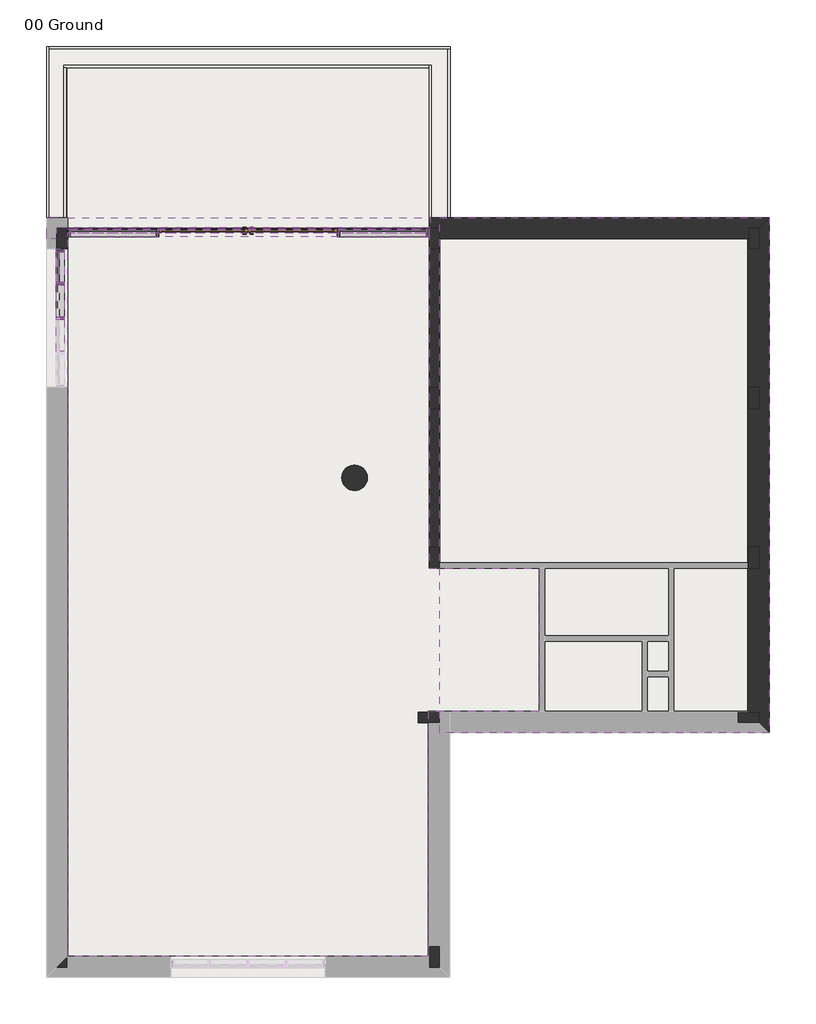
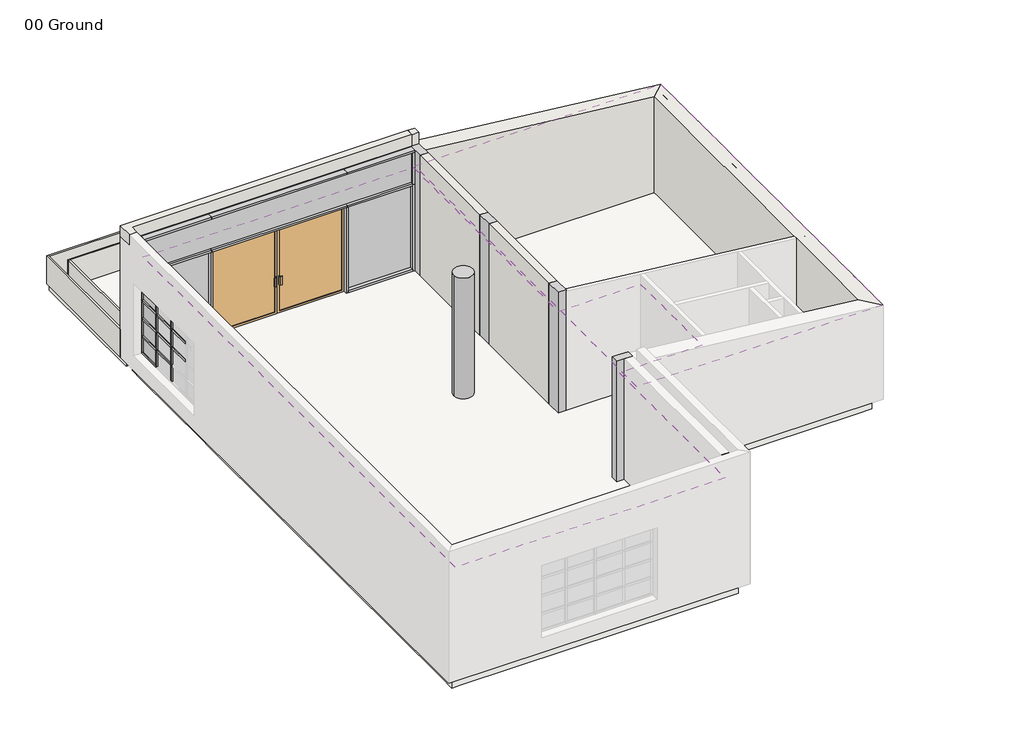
# One storey, part 2 of 2: 37 members, 15 columns, 11 walls, 7 plates, 3 slabs, 1 covering, 1 door, 1 roof.
"""IFC4 building model written with IfcOpenShell, lengths in millimetres."""

from ifc_helpers import new_model, si_unit, point, frame, frame_2d, origin, origin_with_axes, place, context, project, spatial, polyline, circle_curve, trimmed, segment, composite_curve, outline, extrude, faceted_brep, transform, mapped, element, save
from components import m_door_curtain_wall_double_storefront_m_door_curtain_wall_edb91ac7, rectangular_mullion_50_x_150mm_b8963a12, rectangular_mullion_50_x_150mm_ca64fab8, rectangular_mullion_50_x_150mm_c8600b0d, rectangular_mullion_50_x_150mm_7893aaae, rectangular_mullion_50_x_150mm_57f910c3, rectangular_mullion_50_x_150mm_ec782ea6, rectangular_mullion_50_x_150mm_8753ce05, rectangular_mullion_50_x_150mm_324a6438, rectangular_mullion_50_x_150mm_5618a3b2, rectangular_mullion_50_x_150mm_9d7ed0e7, rectangular_mullion_50_x_150mm_3942d5f1, rectangular_mullion_50_x_150mm_75048c14, rectangular_mullion_50_x_150mm_fcf054f2, rectangular_mullion_50_x_150mm_24157160, rectangular_mullion_50_x_150mm_bf0cb304, rectangular_mullion_50_x_150mm_89c22e8d, rectangular_mullion_50_x_150mm_42d59fea, rectangular_mullion_50_x_150mm_129a33a7, rectangular_mullion_50_x_150mm_05a43cda, system_panel_glazed_18425fd7, system_panel_glazed_5c27190a, system_panel_glazed_707fa540, system_panel_glazed_f545c6ae, system_panel_solid_6db23722

model = new_model("IFC4")

# Units and contexts
model_context = context("Model", 3, world=origin())
ifc_project = project(units=[si_unit("LENGTHUNIT", "METRE", prefix="MILLI")], contexts=[model_context])

# Site, building, storey
site = spatial("IfcSite", under=ifc_project)
building = spatial("IfcBuilding", under=site)
storey = spatial("IfcBuildingStorey", under=building, Name="00 Ground", Elevation=0.0)

# Columns
placement = place(None, origin())
element("IfcColumn", 1, ObjectType="M_Concrete-Rectangular-Column : 200 x 400mm", at=placement, inside=storey, context=model_context, shape_type="Brep", body=[
    faceted_brep([(-8122.5407999, 6337.2898352, 0.0), (-8122.5407999, 5937.2898352, 0.0), (-8322.5407999, 5937.2898352, 0.0), (-8322.5407999, 6337.2898352, 0.0), (-8122.5407999, 6337.2898352, 3200.0), (-8122.5407999, 5937.2898352, 3200.0), (-8122.5407999, 5937.2898352, 2300.0), (-8122.5407999, 5937.2898352, 400.0), (-8322.5407999, 5937.2898352, 3200.0), (-8322.5407999, 5937.2898352, 2300.0), (-8322.5407999, 5937.2898352, 400.0), (-8322.5407999, 6124.2898352, 3200.0), (-8322.5407999, 6337.2898352, 3200.0)], [[[0, 1, 2, 3]], [[1, 0, 4, 5, 6, 7]], [[2, 1, 7, 6, 5, 8, 9, 10]], [[3, 2, 10, 9, 8, 11, 12]], [[0, 3, 12, 4]], [[5, 4, 12, 11, 8]]]),
])
element("IfcColumn", 2, ObjectType="M_Concrete-Rectangular-Column : 200 x 400mm", at=placement, inside=storey, context=model_context, shape_type="SweptSolid", body=[
    extrude(outline(polyline([(-8122.5407999, 3337.2898352), (-8122.5407999, 2937.2898352), (-8322.5407999, 2937.2898352), (-8322.5407999, 3337.2898352), (-8122.5407999, 3337.2898352)])), origin_with_axes(), (0.0, 0.0, 1.0), 3200.0),
])
element("IfcColumn", 3, ObjectType="M_Concrete-Rectangular-Column : 200 x 400mm", at=placement, inside=storey, context=model_context, shape_type="SweptSolid", body=[
    extrude(outline(polyline([(-8122.5407999, 337.2898352), (-8122.5407999, -62.7101648), (-8322.5407999, -62.7101648), (-8322.5407999, 337.2898352), (-8122.5407999, 337.2898352)])), origin_with_axes(), (0.0, 0.0, 1.0), 3200.0),
])
element("IfcColumn", 4, ObjectType="M_Concrete-Rectangular-Column : 200 x 400mm", at=placement, inside=storey, context=model_context, shape_type="SweptSolid", body=[
    extrude(outline(polyline([(-8122.5407999, -2662.7101648), (-8122.5407999, -3062.7101648), (-8322.5407999, -3062.7101648), (-8322.5407999, -2662.7101648), (-8122.5407999, -2662.7101648)])), origin_with_axes(), (0.0, 0.0, 1.0), 3200.0),
])
element("IfcColumn", 5, ObjectType="M_Concrete-Rectangular-Column : 200 x 400mm", at=placement, inside=storey, context=model_context, shape_type="SweptSolid", body=[
    extrude(outline(polyline([(-1122.5407999, 337.2898352), (-1122.5407999, -62.7101648), (-1322.5407999, -62.7101648), (-1322.5407999, 337.2898352), (-1122.5407999, 337.2898352)])), origin_with_axes(), (0.0, 0.0, 1.0), 3200.0),
])
element("IfcColumn", 6, ObjectType="M_Concrete-Rectangular-Column : 200 x 400mm", at=placement, inside=storey, context=model_context, shape_type="Brep", body=[
    faceted_brep([(-1522.5407999, -2762.7101648, 0.0), (-1335.5407999, -2762.7101648, 0.0), (-1122.5407999, -2762.7101648, 0.0), (-1122.5407999, -2962.7101648, 0.0), (-1335.5407999, -2962.7101648, 0.0), (-1522.5407999, -2962.7101648, 0.0), (-1522.5407999, -2762.7101648, 3200.0), (-1335.5407999, -2762.7101648, 3200.0), (-1122.5407999, -2762.7101648, 3200.0), (-1122.5407999, -2762.7101648, 3160.0), (-1122.5407999, -2962.7101648, 3200.0), (-1122.5407999, -2962.7101648, 3160.0), (-1335.5407999, -2962.7101648, 3200.0), (-1522.5407999, -2962.7101648, 3200.0)], [[[0, 1, 2, 3, 4, 5]], [[2, 1, 0, 6, 7, 8, 9]], [[3, 2, 9, 8, 10, 11]], [[5, 4, 3, 11, 10, 12, 13]], [[0, 5, 13, 6]], [[8, 7, 6, 13, 12, 10]]]),
])
element("IfcColumn", 7, ObjectType="M_Concrete-Rectangular-Column : 200 x 400mm", at=placement, inside=storey, context=model_context, shape_type="Brep", body=[
    faceted_brep([(4877.4592001, 6337.2898352, 0.0), (4877.4592001, 5937.2898352, 0.0), (4677.4592001, 5937.2898352, 0.0), (4677.4592001, 6137.2898352, 0.0), (4677.4592001, 6337.2898352, 0.0), (4877.4592001, 6337.2898352, 2519.7413096), (4877.4592001, 5937.2898352, 2519.7413096), (4677.4592001, 5937.2898352, 2519.7413096), (4677.4592001, 6137.2898352, 2519.7413096), (4677.4592001, 6337.2898352, 2519.7413096)], [[[0, 1, 2, 3, 4]], [[5, 6, 1, 0]], [[6, 7, 2, 1]], [[7, 8, 9, 4, 3, 2]], [[9, 5, 0, 4]], [[5, 9, 8, 7, 6]]]),
])
element("IfcColumn", 8, ObjectType="M_Concrete-Rectangular-Column : 200 x 400mm", at=placement, inside=storey, context=model_context, shape_type="Brep", body=[
    faceted_brep([(-1122.5407999, 6337.2898352, 0.0), (-1122.5407999, 6124.2898352, 0.0), (-1122.5407999, 5937.2898352, 0.0), (-1322.5407999, 5937.2898352, 0.0), (-1322.5407999, 6337.2898352, 0.0), (-1122.5407999, 6337.2898352, 3160.0), (-1122.5407999, 6337.2898352, 3200.0), (-1122.5407999, 5937.2898352, 3200.0), (-1322.5407999, 5937.2898352, 3200.0), (-1322.5407999, 6337.2898352, 3200.0), (-1300.0407999, 6337.2898352, 3200.0)], [[[0, 1, 2, 3, 4]], [[2, 1, 0, 5, 6, 7]], [[3, 2, 7, 8]], [[4, 3, 8, 9]], [[0, 4, 9, 10, 6, 5]], [[7, 6, 10, 9, 8]]]),
])
element("IfcColumn", 9, ObjectType="M_Concrete-Rectangular-Column : 200 x 400mm", at=placement, inside=storey, context=model_context, shape_type="SweptSolid", body=[
    extrude(outline(polyline([(-1122.5407999, 3337.2898352), (-1122.5407999, 2937.2898352), (-1322.5407999, 2937.2898352), (-1322.5407999, 3337.2898352), (-1122.5407999, 3337.2898352)])), origin_with_axes(), (0.0, 0.0, 1.0), 3200.0),
])
element("IfcColumn", 10, ObjectType="M_Concrete-Rectangular-Column : 200 x 400mm", at=placement, inside=storey, context=model_context, shape_type="SweptSolid", body=[
    extrude(outline(polyline([(4877.4592001, 3337.2898352), (4877.4592001, 2937.2898352), (4677.4592001, 2937.2898352), (4677.4592001, 3337.2898352), (4877.4592001, 3337.2898352)])), origin_with_axes(), (0.0, 0.0, 1.0), 2519.7413096),
])
element("IfcColumn", 11, ObjectType="M_Concrete-Rectangular-Column : 200 x 400mm", at=placement, inside=storey, context=model_context, shape_type="Brep", body=[
    faceted_brep([(4477.4592001, -2762.7101648, 0.0), (4677.4592001, -2762.7101648, 0.0), (4877.4592001, -2762.7101648, 0.0), (4877.4592001, -2962.7101648, 0.0), (4477.4592001, -2962.7101648, 0.0), (4477.4592001, -2762.7101648, 2519.7413096), (4677.4592001, -2762.7101648, 2519.7413096), (4877.4592001, -2762.7101648, 2519.7413096), (4877.4592001, -2962.7101648, 2519.7413096), (4477.4592001, -2962.7101648, 2519.7413096)], [[[0, 1, 2, 3, 4]], [[5, 6, 7, 2, 1, 0]], [[7, 8, 3, 2]], [[8, 9, 4, 3]], [[9, 5, 0, 4]], [[5, 9, 8, 7, 6]]]),
])
element("IfcColumn", 12, ObjectType="M_Concrete-Rectangular-Column : 200 x 400mm", at=placement, inside=storey, context=model_context, shape_type="SweptSolid", body=[
    extrude(outline(polyline([(4677.4592001, -62.7101648), (4677.4592001, 337.2898352), (4877.4592001, 337.2898352), (4877.4592001, -62.7101648), (4677.4592001, -62.7101648)])), origin_with_axes(), (0.0, 0.0, 1.0), 2519.7413096),
])
element("IfcColumn", 13, ObjectType="M_Concrete-Rectangular-Column : 200 x 400mm", at=placement, inside=storey, context=model_context, shape_type="Brep", body=[
    faceted_brep([(-8122.5407999, -7162.7101648, 0.0), (-8122.5407999, -7362.7101648, 0.0), (-8122.5407999, -7562.7101648, 0.0), (-8322.5407999, -7562.7101648, 0.0), (-8322.5407999, -7162.7101648, 0.0), (-8122.5407999, -7162.7101648, 3200.0), (-8122.5407999, -7362.7101648, 3200.0), (-8122.5407999, -7562.7101648, 3200.0), (-8322.5407999, -7562.7101648, 3200.0), (-8322.5407999, -7162.7101648, 3200.0)], [[[0, 1, 2, 3, 4]], [[2, 1, 0, 5, 6, 7]], [[3, 2, 7, 8]], [[4, 3, 8, 9]], [[0, 4, 9, 5]], [[7, 6, 5, 9, 8]]]),
])
element("IfcColumn", 14, ObjectType="M_Concrete-Rectangular-Column : 200 x 400mm", at=placement, inside=storey, context=model_context, shape_type="Brep", body=[
    faceted_brep([(-1122.5407999, -7162.7101648, 0.0), (-1122.5407999, -7562.7101648, 0.0), (-1322.5407999, -7562.7101648, 0.0), (-1322.5407999, -7362.7101648, 0.0), (-1322.5407999, -7162.7101648, 0.0), (-1122.5407999, -7162.7101648, 3200.0), (-1122.5407999, -7562.7101648, 3200.0), (-1322.5407999, -7562.7101648, 3200.0), (-1322.5407999, -7362.7101648, 3200.0), (-1322.5407999, -7162.7101648, 3200.0)], [[[0, 1, 2, 3, 4]], [[1, 0, 5, 6]], [[2, 1, 6, 7]], [[4, 3, 2, 7, 8, 9]], [[0, 4, 9, 5]], [[6, 5, 9, 8, 7]]]),
])
element("IfcColumn", 15, ObjectType="M_Concrete-Round-Column : 480mm", at=placement, inside=storey, context=model_context, shape_type="SweptSolid", body=[
    extrude(outline(composite_curve([segment(trimmed(circle_curve(frame_2d((-2722.5407999, 1637.2898352)), 240.0), [point((-2962.5407999, 1637.2898352))], [point((-2482.5407999, 1637.2898352))], False, "CARTESIAN"), True, "CONTINUOUS"), segment(trimmed(circle_curve(frame_2d((-2722.5407999, 1637.2898352)), 240.0), [point((-2482.5407999, 1637.2898352))], [point((-2962.5407999, 1637.2898352))], False, "CARTESIAN"), True, "CONTINUOUS")], self_intersect=False)), origin_with_axes(), (0.0, 0.0, 1.0), 3200.0),
])

# Covering
element("IfcCovering", 16, ObjectType="Plain", at=placement, inside=storey, context=model_context, shape_type="SweptSolid", body=[
    extrude(outline(polyline([(746.9592001, -2749.7101648), (-1335.5407999, -2749.7101648), (-1335.5407999, -7349.7101648), (-8109.5407999, -7349.7101648), (-8109.5407999, 6242.2898352), (-1322.5407999, 6242.2898352), (-1322.5407999, -62.7101648), (746.9592001, -62.7101648), (746.9592001, -2749.7101648)])), frame((0.0, 0.0, 2700.0), z_axis=(0.0, 0.0, 1.0), x_axis=(1.0, 0.0, 0.0)), (0.0, 0.0, 1.0), 57.0),
])

# Door
m_door_curtain_wall_double_storefront_m_door_curtain_wall_shape = m_door_curtain_wall_double_storefront_m_door_curtain_wall_edb91ac7(model_context)
element("IfcDoor", 17, ObjectType="M_Door-Curtain-Wall-Double-Storefront : M_Door-Curtain-Wall-Double-Storefront", at=placement, inside=storey, context=model_context, shape_type="MappedRepresentation", body=[
    mapped(m_door_curtain_wall_double_storefront_m_door_curtain_wall_shape, transform((-4722.5407999, 6242.2898352, 0.0), x_axis=(1.0, 0.0, 0.0), y_axis=(0.0, 1.0, 0.0), z_axis=(0.0, 0.0, 1.0))),
])

# Members
rectangular_mullion_50_x_150mm_shape = rectangular_mullion_50_x_150mm_b8963a12(model_context)
element("IfcMember", 18, ObjectType="Rectangular Mullion : 50 x 150mm", at=placement, inside=storey, context=model_context, shape_type="MappedRepresentation", body=[
    mapped(rectangular_mullion_50_x_150mm_shape, transform((-2997.5407999, 6242.2898352, 0.0), x_axis=(0.0, 0.0, -1.0), y_axis=(0.0, -1.0, 0.0), z_axis=(-1.0, 0.0, 0.0))),
])
rectangular_mullion_50_x_150mm_2_shape = rectangular_mullion_50_x_150mm_ca64fab8(model_context)
element("IfcMember", 19, ObjectType="Rectangular Mullion : 50 x 150mm", at=placement, inside=storey, context=model_context, shape_type="MappedRepresentation", body=[
    mapped(rectangular_mullion_50_x_150mm_2_shape, transform((-3022.5407999, 6242.2898352, 3200.0), x_axis=(0.0, 0.0, 1.0), y_axis=(0.0, -1.0, 0.0), z_axis=(1.0, 0.0, 0.0))),
])
rectangular_mullion_50_x_150mm_3_shape = rectangular_mullion_50_x_150mm_c8600b0d(model_context)
element("IfcMember", 20, ObjectType="Rectangular Mullion : 50 x 150mm", at=placement, inside=storey, context=model_context, shape_type="MappedRepresentation", body=[
    mapped(rectangular_mullion_50_x_150mm_3_shape, transform((-1322.5407999, 6242.2898352, 3200.0), x_axis=(0.0, 0.0, 1.0), y_axis=(0.0, -1.0, 0.0), z_axis=(1.0, 0.0, 0.0))),
])
rectangular_mullion_50_x_150mm_4_shape = rectangular_mullion_50_x_150mm_7893aaae(model_context)
element("IfcMember", 21, ObjectType="Rectangular Mullion : 50 x 150mm", at=placement, inside=storey, context=model_context, shape_type="MappedRepresentation", body=[
    mapped(rectangular_mullion_50_x_150mm_4_shape, transform((-1372.5407999, 6242.2898352, 2300.0), x_axis=(0.0, 0.0, 1.0), y_axis=(0.0, -1.0, 0.0), z_axis=(1.0, 0.0, 0.0))),
])
rectangular_mullion_50_x_150mm_5_shape = rectangular_mullion_50_x_150mm_57f910c3(model_context)
element("IfcMember", 22, ObjectType="Rectangular Mullion : 50 x 150mm", at=placement, inside=storey, context=model_context, shape_type="MappedRepresentation", body=[
    mapped(rectangular_mullion_50_x_150mm_5_shape, transform((-3022.5407999, 6242.2898352, 2300.0), x_axis=(0.0, 0.0, 1.0), y_axis=(0.0, -1.0, 0.0), z_axis=(1.0, 0.0, 0.0))),
])
rectangular_mullion_50_x_150mm_6_shape = rectangular_mullion_50_x_150mm_ec782ea6(model_context)
element("IfcMember", 23, ObjectType="Rectangular Mullion : 50 x 150mm", at=placement, inside=storey, context=model_context, shape_type="MappedRepresentation", body=[
    mapped(rectangular_mullion_50_x_150mm_6_shape, transform((-6422.5407999, 6242.2898352, 0.0), x_axis=(1.0, 0.0, 0.0), y_axis=(0.0, -1.0, 0.0), z_axis=(0.0, 0.0, -1.0))),
])
element("IfcMember", 24, ObjectType="Rectangular Mullion : 50 x 150mm", at=placement, inside=storey, context=model_context, shape_type="MappedRepresentation", body=[
    mapped(rectangular_mullion_50_x_150mm_6_shape, transform((-3022.5407999, 6242.2898352, 0.0), x_axis=(1.0, 0.0, 0.0), y_axis=(0.0, -1.0, 0.0), z_axis=(0.0, 0.0, -1.0))),
])
rectangular_mullion_50_x_150mm_7_shape = rectangular_mullion_50_x_150mm_8753ce05(model_context)
element("IfcMember", 25, ObjectType="Rectangular Mullion : 50 x 150mm", at=placement, inside=storey, context=model_context, shape_type="MappedRepresentation", body=[
    mapped(rectangular_mullion_50_x_150mm_7_shape, transform((-1322.5407999, 6242.2898352, 0.0), x_axis=(1.0, 0.0, 0.0), y_axis=(0.0, -1.0, 0.0), z_axis=(0.0, 0.0, -1.0))),
])
rectangular_mullion_50_x_150mm_8_shape = rectangular_mullion_50_x_150mm_324a6438(model_context)
element("IfcMember", 26, ObjectType="Rectangular Mullion : 50 x 150mm", at=placement, inside=storey, context=model_context, shape_type="MappedRepresentation", body=[
    mapped(rectangular_mullion_50_x_150mm_8_shape, transform((-8109.5407999, 6242.2898352, 3150.0), x_axis=(-1.0, 0.0, 0.0), y_axis=(0.0, -1.0, 0.0), z_axis=(0.0, 0.0, 1.0))),
])
element("IfcMember", 27, ObjectType="Rectangular Mullion : 50 x 150mm", at=placement, inside=storey, context=model_context, shape_type="MappedRepresentation", body=[
    mapped(rectangular_mullion_50_x_150mm_8_shape, transform((-1322.5407999, 6242.2898352, 2300.0), x_axis=(1.0, 0.0, 0.0), y_axis=(0.0, -1.0, 0.0), z_axis=(0.0, 0.0, -1.0))),
])
element("IfcMember", 28, ObjectType="Rectangular Mullion : 50 x 150mm", at=placement, inside=storey, context=model_context, shape_type="MappedRepresentation", body=[
    mapped(rectangular_mullion_50_x_150mm_7_shape, transform((-8109.5407999, 6242.2898352, 2300.0), x_axis=(-1.0, 0.0, 0.0), y_axis=(0.0, -1.0, 0.0), z_axis=(0.0, 0.0, 1.0))),
])
rectangular_mullion_50_x_150mm_9_shape = rectangular_mullion_50_x_150mm_5618a3b2(model_context)
element("IfcMember", 29, ObjectType="Rectangular Mullion : 50 x 150mm", at=placement, inside=storey, context=model_context, shape_type="MappedRepresentation", body=[
    mapped(rectangular_mullion_50_x_150mm_9_shape, transform((-8247.5407999, 5937.2898352, 2300.0), x_axis=(0.0, 0.0, 1.0), y_axis=(1.0, 0.0, 0.0), z_axis=(0.0, 1.0, 0.0))),
])
rectangular_mullion_50_x_150mm_10_shape = rectangular_mullion_50_x_150mm_9d7ed0e7(model_context)
element("IfcMember", 30, ObjectType="Rectangular Mullion : 50 x 150mm", at=placement, inside=storey, context=model_context, shape_type="MappedRepresentation", body=[
    mapped(rectangular_mullion_50_x_150mm_10_shape, transform((-8247.5407999, 5287.2898351, 2300.0), x_axis=(0.0, 0.0, 1.0), y_axis=(1.0, 0.0, 0.0), z_axis=(0.0, 1.0, 0.0))),
])
element("IfcMember", 31, ObjectType="Rectangular Mullion : 50 x 150mm", at=placement, inside=storey, context=model_context, shape_type="MappedRepresentation", body=[
    mapped(rectangular_mullion_50_x_150mm_9_shape, transform((-8247.5407999, 5287.2898351, 400.0), x_axis=(0.0, 0.0, -1.0), y_axis=(1.0, 0.0, 0.0), z_axis=(0.0, -1.0, 0.0))),
])
rectangular_mullion_50_x_150mm_11_shape = rectangular_mullion_50_x_150mm_3942d5f1(model_context)
element("IfcMember", 32, ObjectType="Rectangular Mullion : 50 x 150mm", at=placement, inside=storey, context=model_context, shape_type="MappedRepresentation", body=[
    mapped(rectangular_mullion_50_x_150mm_11_shape, transform((-8247.5407999, 5887.2898352, 875.0), x_axis=(0.0, 0.0, 1.0), y_axis=(1.0, 0.0, 0.0), z_axis=(0.0, 1.0, 0.0))),
])
element("IfcMember", 33, ObjectType="Rectangular Mullion : 50 x 150mm", at=placement, inside=storey, context=model_context, shape_type="MappedRepresentation", body=[
    mapped(rectangular_mullion_50_x_150mm_11_shape, transform((-8247.5407999, 5887.2898352, 1350.0), x_axis=(0.0, 0.0, 1.0), y_axis=(1.0, 0.0, 0.0), z_axis=(0.0, 1.0, 0.0))),
])
element("IfcMember", 34, ObjectType="Rectangular Mullion : 50 x 150mm", at=placement, inside=storey, context=model_context, shape_type="MappedRepresentation", body=[
    mapped(rectangular_mullion_50_x_150mm_11_shape, transform((-8247.5407999, 5887.2898352, 1825.0), x_axis=(0.0, 0.0, 1.0), y_axis=(1.0, 0.0, 0.0), z_axis=(0.0, 1.0, 0.0))),
])
rectangular_mullion_50_x_150mm_12_shape = rectangular_mullion_50_x_150mm_75048c14(model_context)
element("IfcMember", 35, ObjectType="Rectangular Mullion : 50 x 150mm", at=placement, inside=storey, context=model_context, shape_type="MappedRepresentation", body=[
    mapped(rectangular_mullion_50_x_150mm_12_shape, transform((-8247.5407999, 5262.2898351, 875.0), x_axis=(0.0, 0.0, 1.0), y_axis=(1.0, 0.0, 0.0), z_axis=(0.0, 1.0, 0.0))),
])
element("IfcMember", 36, ObjectType="Rectangular Mullion : 50 x 150mm", at=placement, inside=storey, context=model_context, shape_type="MappedRepresentation", body=[
    mapped(rectangular_mullion_50_x_150mm_12_shape, transform((-8247.5407999, 4612.2898352, 1350.0), x_axis=(0.0, 0.0, 1.0), y_axis=(1.0, 0.0, 0.0), z_axis=(0.0, 1.0, 0.0))),
])
element("IfcMember", 37, ObjectType="Rectangular Mullion : 50 x 150mm", at=placement, inside=storey, context=model_context, shape_type="MappedRepresentation", body=[
    mapped(rectangular_mullion_50_x_150mm_12_shape, transform((-8247.5407999, 5262.2898351, 1350.0), x_axis=(0.0, 0.0, 1.0), y_axis=(1.0, 0.0, 0.0), z_axis=(0.0, 1.0, 0.0))),
])
element("IfcMember", 38, ObjectType="Rectangular Mullion : 50 x 150mm", at=placement, inside=storey, context=model_context, shape_type="MappedRepresentation", body=[
    mapped(rectangular_mullion_50_x_150mm_12_shape, transform((-8247.5407999, 4612.2898352, 1825.0), x_axis=(0.0, 0.0, 1.0), y_axis=(1.0, 0.0, 0.0), z_axis=(0.0, 1.0, 0.0))),
])
element("IfcMember", 39, ObjectType="Rectangular Mullion : 50 x 150mm", at=placement, inside=storey, context=model_context, shape_type="MappedRepresentation", body=[
    mapped(rectangular_mullion_50_x_150mm_12_shape, transform((-8247.5407999, 5262.2898351, 1825.0), x_axis=(0.0, 0.0, 1.0), y_axis=(1.0, 0.0, 0.0), z_axis=(0.0, 1.0, 0.0))),
])
rectangular_mullion_50_x_150mm_13_shape = rectangular_mullion_50_x_150mm_fcf054f2(model_context)
element("IfcMember", 40, ObjectType="Rectangular Mullion : 50 x 150mm", at=placement, inside=storey, context=model_context, shape_type="MappedRepresentation", body=[
    mapped(rectangular_mullion_50_x_150mm_13_shape, transform((-6422.5407999, 6242.2898352, 3200.0), x_axis=(0.0, 0.0, 1.0), y_axis=(0.0, -1.0, 0.0), z_axis=(1.0, 0.0, 0.0))),
])
rectangular_mullion_50_x_150mm_14_shape = rectangular_mullion_50_x_150mm_24157160(model_context)
element("IfcMember", 41, ObjectType="Rectangular Mullion : 50 x 150mm", at=placement, inside=storey, context=model_context, shape_type="MappedRepresentation", body=[
    mapped(rectangular_mullion_50_x_150mm_14_shape, transform((-8059.5407999, 6242.2898352, 0.0), x_axis=(0.0, 0.0, -1.0), y_axis=(0.0, -1.0, 0.0), z_axis=(-1.0, 0.0, 0.0))),
])
rectangular_mullion_50_x_150mm_15_shape = rectangular_mullion_50_x_150mm_bf0cb304(model_context)
element("IfcMember", 42, ObjectType="Rectangular Mullion : 50 x 150mm", at=placement, inside=storey, context=model_context, shape_type="MappedRepresentation", body=[
    mapped(rectangular_mullion_50_x_150mm_15_shape, transform((-6422.5407999, 6242.2898352, 2300.0), x_axis=(0.0, 0.0, 1.0), y_axis=(0.0, -1.0, 0.0), z_axis=(1.0, 0.0, 0.0))),
])
rectangular_mullion_50_x_150mm_16_shape = rectangular_mullion_50_x_150mm_89c22e8d(model_context)
element("IfcMember", 43, ObjectType="Rectangular Mullion : 50 x 150mm", at=placement, inside=storey, context=model_context, shape_type="MappedRepresentation", body=[
    mapped(rectangular_mullion_50_x_150mm_16_shape, transform((-8247.5407999, 5937.2898352, 450.0), x_axis=(0.0, 1.0, 0.0), y_axis=(1.0, 0.0, 0.0), z_axis=(0.0, 0.0, -1.0))),
])
rectangular_mullion_50_x_150mm_17_shape = rectangular_mullion_50_x_150mm_42d59fea(model_context)
element("IfcMember", 44, ObjectType="Rectangular Mullion : 50 x 150mm", at=placement, inside=storey, context=model_context, shape_type="MappedRepresentation", body=[
    mapped(rectangular_mullion_50_x_150mm_17_shape, transform((-8247.5407999, 5937.2898352, 875.0), x_axis=(0.0, 1.0, 0.0), y_axis=(1.0, 0.0, 0.0), z_axis=(0.0, 0.0, -1.0))),
])
element("IfcMember", 45, ObjectType="Rectangular Mullion : 50 x 150mm", at=placement, inside=storey, context=model_context, shape_type="MappedRepresentation", body=[
    mapped(rectangular_mullion_50_x_150mm_17_shape, transform((-8247.5407999, 5937.2898352, 1350.0), x_axis=(0.0, 1.0, 0.0), y_axis=(1.0, 0.0, 0.0), z_axis=(0.0, 0.0, -1.0))),
])
element("IfcMember", 46, ObjectType="Rectangular Mullion : 50 x 150mm", at=placement, inside=storey, context=model_context, shape_type="MappedRepresentation", body=[
    mapped(rectangular_mullion_50_x_150mm_16_shape, transform((-8247.5407999, 5937.2898352, 1825.0), x_axis=(0.0, 1.0, 0.0), y_axis=(1.0, 0.0, 0.0), z_axis=(0.0, 0.0, -1.0))),
])
rectangular_mullion_50_x_150mm_18_shape = rectangular_mullion_50_x_150mm_129a33a7(model_context)
element("IfcMember", 47, ObjectType="Rectangular Mullion : 50 x 150mm", at=placement, inside=storey, context=model_context, shape_type="MappedRepresentation", body=[
    mapped(rectangular_mullion_50_x_150mm_18_shape, transform((-8247.5407999, 4637.2898352, 450.0), x_axis=(0.0, 1.0, 0.0), y_axis=(1.0, 0.0, 0.0), z_axis=(0.0, 0.0, -1.0))),
])
element("IfcMember", 48, ObjectType="Rectangular Mullion : 50 x 150mm", at=placement, inside=storey, context=model_context, shape_type="MappedRepresentation", body=[
    mapped(rectangular_mullion_50_x_150mm_18_shape, transform((-8247.5407999, 5287.2898351, 450.0), x_axis=(0.0, 1.0, 0.0), y_axis=(1.0, 0.0, 0.0), z_axis=(0.0, 0.0, -1.0))),
])
rectangular_mullion_50_x_150mm_19_shape = rectangular_mullion_50_x_150mm_05a43cda(model_context)
element("IfcMember", 49, ObjectType="Rectangular Mullion : 50 x 150mm", at=placement, inside=storey, context=model_context, shape_type="MappedRepresentation", body=[
    mapped(rectangular_mullion_50_x_150mm_19_shape, transform((-8247.5407999, 4637.2898352, 875.0), x_axis=(0.0, 1.0, 0.0), y_axis=(1.0, 0.0, 0.0), z_axis=(0.0, 0.0, -1.0))),
])
element("IfcMember", 50, ObjectType="Rectangular Mullion : 50 x 150mm", at=placement, inside=storey, context=model_context, shape_type="MappedRepresentation", body=[
    mapped(rectangular_mullion_50_x_150mm_19_shape, transform((-8247.5407999, 5287.2898351, 875.0), x_axis=(0.0, 1.0, 0.0), y_axis=(1.0, 0.0, 0.0), z_axis=(0.0, 0.0, -1.0))),
])
element("IfcMember", 51, ObjectType="Rectangular Mullion : 50 x 150mm", at=placement, inside=storey, context=model_context, shape_type="MappedRepresentation", body=[
    mapped(rectangular_mullion_50_x_150mm_19_shape, transform((-8247.5407999, 4637.2898352, 1350.0), x_axis=(0.0, 1.0, 0.0), y_axis=(1.0, 0.0, 0.0), z_axis=(0.0, 0.0, -1.0))),
])
element("IfcMember", 52, ObjectType="Rectangular Mullion : 50 x 150mm", at=placement, inside=storey, context=model_context, shape_type="MappedRepresentation", body=[
    mapped(rectangular_mullion_50_x_150mm_19_shape, transform((-8247.5407999, 5287.2898351, 1350.0), x_axis=(0.0, 1.0, 0.0), y_axis=(1.0, 0.0, 0.0), z_axis=(0.0, 0.0, -1.0))),
])
element("IfcMember", 53, ObjectType="Rectangular Mullion : 50 x 150mm", at=placement, inside=storey, context=model_context, shape_type="MappedRepresentation", body=[
    mapped(rectangular_mullion_50_x_150mm_18_shape, transform((-8247.5407999, 4637.2898352, 1825.0), x_axis=(0.0, 1.0, 0.0), y_axis=(1.0, 0.0, 0.0), z_axis=(0.0, 0.0, -1.0))),
])
element("IfcMember", 54, ObjectType="Rectangular Mullion : 50 x 150mm", at=placement, inside=storey, context=model_context, shape_type="MappedRepresentation", body=[
    mapped(rectangular_mullion_50_x_150mm_18_shape, transform((-8247.5407999, 5287.2898351, 1825.0), x_axis=(0.0, 1.0, 0.0), y_axis=(1.0, 0.0, 0.0), z_axis=(0.0, 0.0, -1.0))),
])

# Plates
system_panel_glazed_shape = system_panel_glazed_18425fd7(model_context)
element("IfcPlate", 55, ObjectType="System Panel : Glazed", at=placement, inside=storey, context=model_context, shape_type="MappedRepresentation", body=[
    mapped(system_panel_glazed_shape, transform((-2185.0407999, 6242.2898352, 50.0), x_axis=(1.0, 0.0, 0.0), y_axis=(0.0, 1.0, 0.0), z_axis=(0.0, 0.0, 1.0))),
])
system_panel_glazed_2_shape = system_panel_glazed_5c27190a(model_context)
element("IfcPlate", 56, ObjectType="System Panel : Glazed", at=placement, inside=storey, context=model_context, shape_type="MappedRepresentation", body=[
    mapped(system_panel_glazed_2_shape, transform((-8247.5407999, 5599.7898352, 900.0), x_axis=(0.0, 1.0, 0.0), y_axis=(-1.0, 0.0, 0.0), z_axis=(0.0, 0.0, 1.0))),
])
element("IfcPlate", 57, ObjectType="System Panel : Glazed", at=placement, inside=storey, context=model_context, shape_type="MappedRepresentation", body=[
    mapped(system_panel_glazed_2_shape, transform((-8247.5407999, 5599.7898352, 1375.0), x_axis=(0.0, 1.0, 0.0), y_axis=(-1.0, 0.0, 0.0), z_axis=(0.0, 0.0, 1.0))),
])
system_panel_glazed_3_shape = system_panel_glazed_707fa540(model_context)
element("IfcPlate", 58, ObjectType="System Panel : Glazed", at=placement, inside=storey, context=model_context, shape_type="MappedRepresentation", body=[
    mapped(system_panel_glazed_3_shape, transform((-7253.5407999, 6242.2898352, 50.0), x_axis=(1.0, 0.0, 0.0), y_axis=(0.0, 1.0, 0.0), z_axis=(0.0, 0.0, 1.0))),
])
system_panel_glazed_4_shape = system_panel_glazed_f545c6ae(model_context)
element("IfcPlate", 59, ObjectType="System Panel : Glazed", at=placement, inside=storey, context=model_context, shape_type="MappedRepresentation", body=[
    mapped(system_panel_glazed_4_shape, transform((-8247.5407999, 5599.7898352, 450.0), x_axis=(0.0, 1.0, 0.0), y_axis=(-1.0, 0.0, 0.0), z_axis=(0.0, 0.0, 1.0))),
])
element("IfcPlate", 60, ObjectType="System Panel : Glazed", at=placement, inside=storey, context=model_context, shape_type="MappedRepresentation", body=[
    mapped(system_panel_glazed_4_shape, transform((-8247.5407999, 5599.7898352, 1850.0), x_axis=(0.0, 1.0, 0.0), y_axis=(-1.0, 0.0, 0.0), z_axis=(0.0, 0.0, 1.0))),
])
system_panel_solid_shape = system_panel_solid_6db23722(model_context)
element("IfcPlate", 61, ObjectType="System Panel : Solid", at=placement, inside=storey, context=model_context, shape_type="MappedRepresentation", body=[
    mapped(system_panel_solid_shape, transform((-4716.0407999, 6242.2898352, 2325.0), x_axis=(1.0, 0.0, 0.0), y_axis=(0.0, 1.0, 0.0), z_axis=(0.0, 0.0, 1.0))),
])

# Roof
element("IfcRoof", 62, ObjectType="Warm Roof - Timber", at=placement, inside=storey, context=model_context, shape_type="SweptSolid", body=[
    extrude(outline(polyline([(2839.9189519, 5062.4592001), (3499.9189519, -1122.5407999), (3160.0, -1122.5407999), (2500.0, 5062.4592001), (2839.9189519, 5062.4592001)])), frame((0.0, -3147.7101648, 0.0), z_axis=(0.0, 1.0, 0.0), x_axis=(0.0, 0.0, 1.0)), (0.0, 0.0, 1.0), 9670.0),
])

# Slabs
element("IfcSlab", 63, ObjectType="DECK FLOOR TILES 40mm", at=placement, inside=storey, context=model_context, shape_type="SweptSolid", body=[
    extrude(outline(polyline([(-1322.5407999, 6337.2898352), (-8122.5407999, 6337.2898352), (-8122.5407999, 9337.2898352), (-1322.5407999, 9337.2898352), (-1322.5407999, 6337.2898352)])), origin_with_axes(), (0.0, 0.0, 1.0), 40.0),
])
element("IfcSlab", 64, ObjectType="Generic 300mm", at=placement, inside=storey, context=model_context, shape_type="Brep", body=[
    faceted_brep([(-8322.5407999, 6337.2898352, -300.0), (-8122.5407999, 6337.2898352, -300.0), (-1322.5407999, 6337.2898352, -300.0), (-1122.5407999, 6337.2898352, -300.0), (4677.4592001, 6337.2898352, -300.0), (4877.4592001, 6337.2898352, -300.0), (4877.4592001, 5937.2898352, -300.0), (4877.4592001, 3337.2898352, -300.0), (4877.4592001, 2937.2898352, -300.0), (4877.4592001, 337.2898352, -300.0), (4877.4592001, -62.7101648, -300.0), (4877.4592001, -2762.7101648, -300.0), (4877.4592001, -2962.7101648, -300.0), (4477.4592001, -2962.7101648, -300.0), (-1122.5407999, -2962.7101648, -300.0), (-1122.5407999, -7162.7101648, -300.0), (-1122.5407999, -7562.7101648, -300.0), (-1322.5407999, -7562.7101648, -300.0), (-8122.5407999, -7562.7101648, -300.0), (-8322.5407999, -7562.7101648, -300.0), (-8322.5407999, -7162.7101648, -300.0), (-8322.5407999, -3062.7101648, -300.0), (-8322.5407999, -2662.7101648, -300.0), (-8322.5407999, -62.7101648, -300.0), (-8322.5407999, 337.2898352, -300.0), (-8322.5407999, 2937.2898352, -300.0), (-8322.5407999, 3337.2898352, -300.0), (-8322.5407999, 5937.2898352, -300.0), (-8322.5407999, 6337.2898352, 0.0), (-8322.5407999, 5937.2898352, 0.0), (-8322.5407999, 3337.2898352, 0.0), (-8322.5407999, 2937.2898352, 0.0), (-8322.5407999, 337.2898352, 0.0), (-8322.5407999, -62.7101648, 0.0), (-8322.5407999, -2662.7101648, 0.0), (-8322.5407999, -3062.7101648, 0.0), (-8322.5407999, -7162.7101648, 0.0), (-8322.5407999, -7562.7101648, 0.0), (-8122.5407999, -7562.7101648, 0.0), (-1322.5407999, -7562.7101648, 0.0), (-1122.5407999, -7562.7101648, 0.0), (-1122.5407999, -7162.7101648, 0.0), (-1122.5407999, -2962.7101648, 0.0), (4477.4592001, -2962.7101648, 0.0), (4877.4592001, -2962.7101648, 0.0), (4877.4592001, -2762.7101648, 0.0), (4877.4592001, -62.7101648, 0.0), (4877.4592001, 337.2898352, 0.0), (4877.4592001, 2937.2898352, 0.0), (4877.4592001, 3337.2898352, 0.0), (4877.4592001, 5937.2898352, 0.0), (4877.4592001, 6337.2898352, 0.0), (4677.4592001, 6337.2898352, 0.0), (-1122.5407999, 6337.2898352, 0.0), (-1322.5407999, 6337.2898352, 0.0), (-8122.5407999, 6337.2898352, 0.0)], [[[0, 1, 2, 3, 4, 5, 6, 7, 8, 9, 10, 11, 12, 13, 14, 15, 16, 17, 18, 19, 20, 21, 22, 23, 24, 25, 26, 27]], [[28, 29, 30, 31, 32, 33, 34, 35, 36, 37, 38, 39, 40, 41, 42, 43, 44, 45, 46, 47, 48, 49, 50, 51, 52, 53, 54, 55]], [[5, 4, 3, 2, 1, 0, 28, 55, 54, 53, 52, 51]], [[12, 11, 10, 9, 8, 7, 6, 5, 51, 50, 49, 48, 47, 46, 45, 44]], [[14, 13, 12, 44, 43, 42]], [[16, 15, 14, 42, 41, 40]], [[19, 18, 17, 16, 40, 39, 38, 37]], [[0, 27, 26, 25, 24, 23, 22, 21, 20, 19, 37, 36, 35, 34, 33, 32, 31, 30, 29, 28]]]),
])
element("IfcSlab", 65, ObjectType="TERRACE SLAB 150mm", at=placement, inside=storey, context=model_context, shape_type="SweptSolid", body=[
    extrude(outline(polyline([(-967.5407999, 9692.2898352), (-967.5407999, 6522.2898352), (-1322.5407999, 6522.2898352), (-1322.5407999, 6337.2898352), (-8109.5407999, 6337.2898352), (-8109.5407999, 6359.7898352), (-8462.5407999, 6359.7898352), (-8462.5407999, 9692.2898352), (-967.5407999, 9692.2898352)])), frame((0.0, 0.0, -150.0), z_axis=(0.0, 0.0, 1.0), x_axis=(1.0, 0.0, 0.0)), (0.0, 0.0, 1.0), 150.0),
])

# Walls
element("IfcWall", 66, ObjectType="45T-25linea", at=placement, inside=storey, context=model_context, shape_type="SweptSolid", body=[
    extrude(outline(polyline([(-967.5407999, 6337.2898352), (-1122.5407999, 6337.2898352), (-1122.5407999, 6382.2898352), (-967.5407999, 6382.2898352), (-967.5407999, 6337.2898352)])), origin_with_axes(), (0.0, 0.0, 1.0), 750.0),
])
element("IfcWall", 67, ObjectType="45T-25linea", at=placement, inside=storey, context=model_context, shape_type="Brep", body=[
    faceted_brep([(-8462.5407999, 6522.2898352, 0.0), (-8462.5407999, 9692.2898352, 0.0), (-8462.5407999, 9737.2898352, 0.0), (-8462.5407999, 9737.2898352, 750.0), (-8462.5407999, 9692.2898352, 750.0), (-8462.5407999, 6522.2898352, 750.0), (-8507.5407999, 6522.2898352, 0.0), (-8507.5407999, 6522.2898352, 750.0), (-8507.5407999, 9737.2898352, 750.0), (-8507.5407999, 9737.2898352, 0.0)], [[[0, 1, 2, 3, 4, 5]], [[6, 7, 8, 9]], [[2, 1, 0, 6, 9]], [[5, 4, 3, 8, 7]], [[0, 5, 7, 6]], [[3, 2, 9, 8]]]),
])
element("IfcWall", 68, ObjectType="45T-25linea", at=placement, inside=storey, context=model_context, shape_type="Brep", body=[
    faceted_brep([(-8462.5407999, 9692.2898352, 0.0), (-967.5407999, 9692.2898352, 0.0), (-922.5407999, 9692.2898352, 0.0), (-922.5407999, 9692.2898352, 750.0), (-967.5407999, 9692.2898352, 750.0), (-8462.5407999, 9692.2898352, 750.0), (-8462.5407999, 9737.2898352, 0.0), (-8462.5407999, 9737.2898352, 750.0), (-922.5407999, 9737.2898352, 750.0), (-922.5407999, 9737.2898352, 0.0)], [[[0, 1, 2, 3, 4, 5]], [[6, 7, 8, 9]], [[2, 1, 0, 6, 9]], [[5, 4, 3, 8, 7]], [[0, 5, 7, 6]], [[3, 2, 9, 8]]]),
])
element("IfcWall", 69, ObjectType="45T-25linea", at=placement, inside=storey, context=model_context, shape_type="SweptSolid", body=[
    extrude(outline(polyline([(-967.5407999, 6522.2898352), (-967.5407999, 9692.2898352), (-922.5407999, 9692.2898352), (-922.5407999, 6522.2898352), (-967.5407999, 6522.2898352)])), origin_with_axes(), (0.0, 0.0, 1.0), 750.0),
])
element("IfcWall", 70, ObjectType="45T-25linea", at=placement, inside=storey, context=model_context, shape_type="Brep", body=[
    faceted_brep([(-1277.5407999, 6522.2898352, 0.0), (-1277.5407999, 9382.2898352, 0.0), (-1277.5407999, 9382.2898352, 750.0), (-1277.5407999, 6522.2898352, 750.0), (-1322.5407999, 6522.2898352, 0.0), (-1322.5407999, 6522.2898352, 750.0), (-1322.5407999, 9337.2898352, 750.0), (-1322.5407999, 9382.2898352, 750.0), (-1322.5407999, 9382.2898352, 0.0), (-1322.5407999, 9337.2898352, 0.0)], [[[0, 1, 2, 3]], [[4, 5, 6, 7, 8, 9]], [[1, 0, 4, 9, 8]], [[3, 2, 7, 6, 5]], [[0, 3, 5, 4]], [[2, 1, 8, 7]]]),
])
element("IfcWall", 71, ObjectType="45T-25linea", at=placement, inside=storey, context=model_context, shape_type="Brep", body=[
    faceted_brep([(-1322.5407999, 9382.2898352, 0.0), (-8182.5407999, 9382.2898352, 0.0), (-8182.5407999, 9382.2898352, 750.0), (-1322.5407999, 9382.2898352, 750.0), (-1322.5407999, 9337.2898352, 0.0), (-1322.5407999, 9337.2898352, 750.0), (-8137.5407999, 9337.2898352, 750.0), (-8182.5407999, 9337.2898352, 750.0), (-8182.5407999, 9337.2898352, 0.0), (-8137.5407999, 9337.2898352, 0.0)], [[[0, 1, 2, 3]], [[4, 5, 6, 7, 8, 9]], [[1, 0, 4, 9, 8]], [[3, 2, 7, 6, 5]], [[0, 3, 5, 4]], [[2, 1, 8, 7]]]),
])
element("IfcWall", 72, ObjectType="45T-25linea", at=placement, inside=storey, context=model_context, shape_type="SweptSolid", body=[
    extrude(outline(polyline([(-8182.5407999, 6522.2898352), (-8182.5407999, 9337.2898352), (-8137.5407999, 9337.2898352), (-8137.5407999, 6522.2898352), (-8182.5407999, 6522.2898352)])), origin_with_axes(), (0.0, 0.0, 1.0), 750.0),
])
element("IfcWall", 73, ObjectType="Exterior - Brick on CMU", at=placement, inside=storey, context=model_context, shape_type="Brep", body=[
    faceted_brep([(5062.4592001, -3147.7101648, 0.0), (5062.4592001, 6522.2898352, 0.0), (5062.4592001, 6522.2898352, 2500.0), (5062.4592001, -3147.7101648, 2500.0), (4664.4592001, 6124.2898352, 0.0), (4664.4592001, 37.2898352, 0.0), (4664.4592001, -62.7101648, 0.0), (4664.4592001, -2749.7101648, 0.0), (4664.4592001, -2749.7101648, 2542.4704931), (4664.4592001, -62.7101648, 2542.4704931), (4664.4592001, 37.2898352, 2542.4704931), (4664.4592001, 6124.2898352, 2542.4704931), (4877.4592001, -2962.7101648, 0.0), (4877.4592001, -2762.7101648, 0.0), (4677.4592001, -2762.7101648, 0.0), (4677.4592001, 6137.2898352, 0.0), (4677.4592001, 5937.2898352, 0.0), (4877.4592001, 5937.2898352, 0.0), (4877.4592001, 6337.2898352, 0.0), (4877.4592001, 337.2898352, 0.0), (4677.4592001, 337.2898352, 0.0), (4677.4592001, -62.7101648, 0.0), (4877.4592001, -62.7101648, 0.0), (4877.4592001, 2937.2898352, 0.0), (4877.4592001, 3337.2898352, 0.0), (4677.4592001, 3337.2898352, 0.0), (4677.4592001, 2937.2898352, 0.0), (4877.4592001, -2962.7101648, 2519.7413096), (4677.4592001, -2762.7101648, 2519.7413096), (4877.4592001, 6337.2898352, 2519.7413096), (4677.4592001, 6137.2898352, 2519.7413096), (4877.4592001, 2937.2898352, 2519.7413096), (4877.4592001, 3337.2898352, 2519.7413096), (4677.4592001, 2937.2898352, 2519.7413096), (4677.4592001, 3337.2898352, 2519.7413096), (4677.4592001, 337.2898352, 2519.7413096), (4877.4592001, 337.2898352, 2519.7413096), (4877.4592001, -62.7101648, 2519.7413096), (4677.4592001, -62.7101648, 2519.7413096), (4877.4592001, 5937.2898352, 2519.7413096), (4677.4592001, 5937.2898352, 2519.7413096), (4877.4592001, -2762.7101648, 2519.7413096)], [[[0, 1, 2, 3]], [[4, 5, 6, 7, 8, 9, 10, 11]], [[1, 0, 12, 13, 14, 7, 6, 5, 4, 15, 16, 17, 18], [19, 20, 21, 22], [23, 24, 25, 26]], [[0, 3, 27, 12]], [[8, 7, 14, 28, 27]], [[2, 1, 18, 29]], [[4, 11, 29, 30, 15]], [[31, 32, 24, 23]], [[31, 23, 26, 33]], [[24, 32, 34, 25]], [[35, 20, 19, 36]], [[36, 19, 22, 37]], [[21, 38, 37, 22]], [[39, 29, 18, 17]], [[39, 17, 16, 40]], [[33, 26, 25, 34]], [[35, 38, 21, 20]], [[40, 16, 15, 30]], [[3, 2, 29, 11, 10, 9, 8, 27]], [[32, 31, 33, 34]], [[38, 35, 36, 37]], [[29, 39, 40, 30]], [[13, 41, 28, 14]], [[41, 13, 12, 27]], [[41, 27, 28]]]),
])
element("IfcWall", 74, ObjectType="Exterior - Brick on CMU", at=placement, inside=storey, context=model_context, shape_type="Brep", body=[
    faceted_brep([(5062.4592001, 6522.2898352, 0.0), (-922.5407999, 6522.2898352, 0.0), (-967.5407999, 6522.2898352, 0.0), (-1277.5407999, 6522.2898352, 0.0), (-1322.5407999, 6522.2898352, 0.0), (-1322.5407999, 6522.2898352, 750.0), (-1322.5407999, 6522.2898352, 3200.0), (-1300.0407999, 6522.2898352, 3200.0), (-1300.0407999, 6522.2898352, 3500.0), (-1122.5407999, 6522.2898352, 3500.0), (-1122.5407999, 6522.2898352, 3160.0), (5062.4592001, 6522.2898352, 2500.0), (4664.4592001, 6124.2898352, 0.0), (4664.4592001, 6124.2898352, 2542.4704931), (-1122.5407999, 6124.2898352, 3160.0), (-1122.5407999, 6124.2898352, 0.0), (4877.4592001, 6337.2898352, 0.0), (4677.4592001, 6337.2898352, 0.0), (4677.4592001, 6137.2898352, 0.0), (-1122.5407999, 6337.2898352, 0.0), (-1322.5407999, 6337.2898352, 0.0), (4877.4592001, 6337.2898352, 2519.7413096), (4677.4592001, 6137.2898352, 2519.7413096), (-1122.5407999, 6337.2898352, 3160.0), (-1122.5407999, 6337.2898352, 3200.0), (-1122.5407999, 6337.2898352, 3500.0), (-1300.0407999, 6337.2898352, 3500.0), (-1300.0407999, 6337.2898352, 3200.0), (-1322.5407999, 6337.2898352, 3200.0), (4677.4592001, 6337.2898352, 2519.7413096)], [[[0, 1, 2, 3, 4, 5, 6, 7, 8, 9, 10, 11]], [[12, 13, 14, 15]], [[4, 3, 2, 1, 0, 16, 17, 18, 12, 15, 19, 20]], [[0, 11, 21, 16]], [[13, 12, 18, 22, 21]], [[19, 15, 14, 23]], [[20, 19, 23, 24, 25, 26, 27, 28]], [[17, 29, 22, 18]], [[29, 17, 16, 21]], [[29, 21, 22]], [[8, 7, 27, 26]], [[7, 6, 28, 27]], [[4, 20, 28, 6, 5]], [[8, 26, 25, 9]], [[10, 9, 25, 24, 23]], [[11, 10, 23, 14, 13, 21]]]),
])
element("IfcWall", 75, ObjectType="Exterior - Brick on CMU", at=placement, inside=storey, context=model_context, shape_type="Brep", body=[
    faceted_brep([(-8507.5407999, 6522.2898352, 3200.0), (-8507.5407999, 6522.2898352, 3500.0), (-2997.5407999, 6522.2898352, 3500.0), (-1300.0407999, 6522.2898352, 3500.0), (-1300.0407999, 6522.2898352, 3200.0), (-1322.5407999, 6522.2898352, 3200.0), (-8109.5407999, 6522.2898352, 3200.0), (-8507.5407999, 6124.2898352, 3500.0), (-8507.5407999, 6124.2898352, 3200.0), (-8322.5407999, 6124.2898352, 3200.0), (-8322.5407999, 6124.2898352, 3500.0), (-1300.0407999, 6337.2898352, 3200.0), (-1322.5407999, 6337.2898352, 3200.0), (-8122.5407999, 6337.2898352, 3200.0), (-8322.5407999, 6337.2898352, 3200.0), (-8322.5407999, 6337.2898352, 3500.0), (-1322.5407999, 6337.2898352, 3500.0), (-1300.0407999, 6337.2898352, 3500.0)], [[[0, 1, 2, 3, 4, 5, 6]], [[7, 8, 9, 10]], [[8, 0, 6, 5, 4, 11, 12, 13, 14, 9]], [[1, 0, 8, 7]], [[1, 7, 10, 15, 16, 17, 3, 2]], [[15, 14, 13, 12, 11, 17, 16]], [[4, 3, 17, 11]], [[14, 15, 10, 9]]]),
])
element("IfcWall", 76, ObjectType="Generic - 200mm - Filled", at=placement, inside=storey, context=model_context, shape_type="SweptSolid", body=[
    extrude(outline(polyline([(-1322.5407999, 5937.2898352), (-1122.5407999, 5937.2898352), (-1122.5407999, 3337.2898352), (-1322.5407999, 3337.2898352), (-1322.5407999, 5937.2898352)])), origin_with_axes(), (0.0, 0.0, 1.0), 3200.0),
    extrude(outline(polyline([(-1322.5407999, 2937.2898352), (-1122.5407999, 2937.2898352), (-1122.5407999, 337.2898352), (-1322.5407999, 337.2898352), (-1322.5407999, 2937.2898352)])), origin_with_axes(), (0.0, 0.0, 1.0), 3200.0),
])

save(model, "model.ifc")
